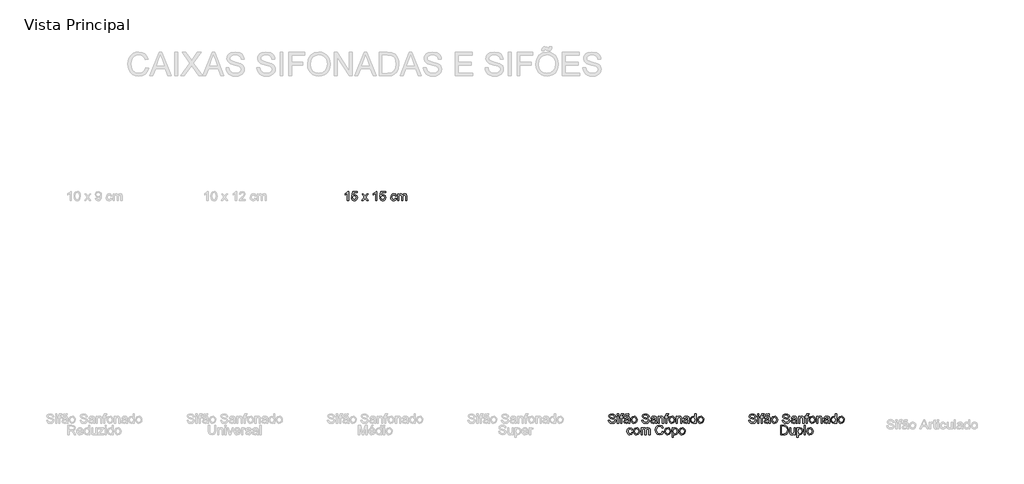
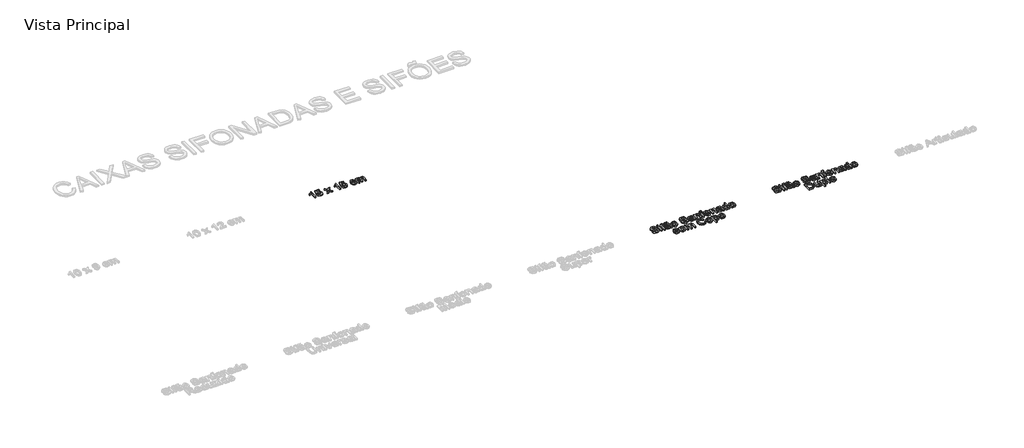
# One storey, part 4 of 5: 3 proxies.
"""IFC4 building model written with IfcOpenShell, lengths in millimetres."""

from ifc_helpers import new_model, si_unit, origin, origin_with_axes, place, context, project, spatial, polyline, outline, extrude, element, save

model = new_model("IFC4")

# Units and contexts
model_context = context("Model", 3, world=origin())
ifc_project = project(units=[si_unit("LENGTHUNIT", "METRE", prefix="MILLI")], contexts=[model_context])

# Site, building, storey
site = spatial("IfcSite", under=ifc_project)
building = spatial("IfcBuilding", under=site)
storey = spatial("IfcBuildingStorey", under=building, Name="Vista Principal", Elevation=0.0)

# Proxies
placement = place(None, origin())
element("IfcBuildingElementProxy", 1, Name="Texto", ObjectType="Texto", at=placement, inside=storey, context=model_context, shape_type="SweptSolid", body=[
    extrude(outline(polyline([(50.7025466, -411.7621072), (43.1683233, -411.7621072), (43.1683233, -364.7909341), (36.0314126, -369.8750633), (28.0998768, -373.6789631), (28.0998768, -366.5567677), (39.1436943, -359.5081486), (45.8465042, -351.4883211), (50.7025466, -351.4883211), (50.7025466, -411.7621072)])), origin_with_axes(), (0.0, 0.0, 1.0), 10.0),
    extrude(outline(polyline([(68.5963268, -395.7518828), (76.1305501, -394.8101049), (79.9270922, -402.572415), (87.7997669, -405.1696619), (97.2469766, -401.5570607), (100.6167757, -391.9700559), (97.4603481, -383.0231658), (87.9174892, -379.7416584), (81.3029709, -381.0513183), (77.072328, -384.4505479), (69.5381047, -383.50877), (76.1305501, -352.4300991), (105.3256652, -352.4300991), (105.3256652, -359.9643223), (82.2226759, -359.9643223), (79.0000296, -376.5631579), (90.0217742, -372.2074351), (102.9050017, -377.6079428), (108.1509989, -391.4991669), (103.4273941, -405.4786828), (96.6436501, -410.8975845), (87.7703364, -412.7038851), (74.4750811, -408.0612144), (68.5963268, -395.7518828)])), origin_with_axes(), (0.0, 0.0, 1.0), 10.0),
    extrude(outline(polyline([(135.4625582, -411.7621072), (151.5610743, -389.5126042), (136.4043361, -367.4985456), (145.4689485, -367.4985456), (152.7824426, -378.093547), (156.1963875, -383.0967422), (159.1541587, -379.0058944), (167.4830071, -367.4985456), (176.5476195, -367.4985456), (160.6256867, -389.5126042), (175.9590083, -411.7621072), (166.8943959, -411.7621072), (157.6679155, -398.3859179), (155.9756583, -395.9431814), (144.5271706, -411.7621072), (135.4625582, -411.7621072)])), origin_with_axes(), (0.0, 0.0, 1.0), 10.0),
    extrude(outline(polyline([(232.4656827, -411.7621072), (224.9314595, -411.7621072), (224.9314595, -364.7909341), (217.7945488, -369.8750633), (209.8630129, -373.6789631), (209.8630129, -366.5567677), (220.9068304, -359.5081486), (227.6096404, -351.4883211), (232.4656827, -351.4883211), (232.4656827, -411.7621072)])), origin_with_axes(), (0.0, 0.0, 1.0), 10.0),
    extrude(outline(polyline([(250.359463, -395.7518828), (257.8936862, -394.8101049), (261.6902284, -402.572415), (269.5629031, -405.1696619), (279.0101128, -401.5570607), (282.3799118, -391.9700559), (279.2234843, -383.0231658), (269.6806254, -379.7416584), (263.0661071, -381.0513183), (258.8354641, -384.4505479), (251.3012409, -383.50877), (257.8936862, -352.4300991), (287.0888014, -352.4300991), (287.0888014, -359.9643223), (263.9858121, -359.9643223), (260.7631658, -376.5631579), (271.7849104, -372.2074351), (284.6681378, -377.6079428), (289.9141351, -391.4991669), (285.1905303, -405.4786828), (278.4067863, -410.8975845), (269.5334726, -412.7038851), (256.2382173, -408.0612144), (250.359463, -395.7518828)])), origin_with_axes(), (0.0, 0.0, 1.0), 10.0),
    extrude(outline(polyline([(350.1879212, -395.7518828), (357.7221444, -396.6936607), (351.6741644, -408.4585269), (339.7253572, -412.7038851), (331.711048, -411.2231601), (325.4441782, -406.780985), (321.3993157, -399.5723373), (320.0510281, -389.7921945), (322.3539694, -377.276849), (329.3731579, -369.2349486), (339.6223503, -366.5567677), (351.0781956, -370.2355876), (356.7803665, -380.6834363), (349.2461433, -381.6252142), (345.7512643, -375.9819044), (339.6812114, -374.0909909), (330.9476928, -377.8139567), (327.5852514, -389.5861806), (330.8741164, -401.468769), (339.4751975, -405.1696619), (346.57532, -402.8593629), (350.1879212, -395.7518828)])), origin_with_axes(), (0.0, 0.0, 1.0), 10.0),
    extrude(outline(polyline([(364.3145898, -411.7621072), (364.3145898, -367.4985456), (371.8488131, -367.4985456), (371.8488131, -374.7826091), (377.0285916, -368.8155631), (384.4009467, -366.5567677), (391.9498853, -368.859709), (396.0995942, -375.3123592), (401.9783485, -368.7456655), (409.4022071, -366.5567677), (419.254087, -370.1987994), (422.7048201, -381.4192003), (422.7048201, -411.7621072), (415.1705968, -411.7621072), (415.1705968, -384.6565618), (414.471621, -378.3657797), (411.9405929, -375.2682133), (407.6363736, -374.0909909), (400.2272302, -377.1076233), (397.2768166, -386.7755621), (397.2768166, -411.7621072), (389.7425933, -411.7621072), (389.7425933, -383.8177909), (387.9988326, -376.5190121), (382.2819464, -374.0909909), (376.7048554, -375.7096717), (372.9966049, -380.4479918), (371.8488131, -389.4390278), (371.8488131, -411.7621072), (364.3145898, -411.7621072)])), origin_with_axes(), (0.0, 0.0, 1.0), 10.0),
])
element("IfcBuildingElementProxy", 2, Name="Texto", ObjectType="Texto", at=placement, inside=storey, context=model_context, shape_type="SweptSolid", body=[
    extrude(outline(polyline([(1715.0973215, -1818.6887424), (1722.6315448, -1818.6887424), (1725.059566, -1826.2303233), (1730.9898237, -1830.998074), (1740.0250055, -1832.8154111), (1747.8976802, -1831.4395324), (1752.9818094, -1827.6577055), (1754.6519937, -1822.6030069), (1753.4011949, -1817.901475), (1748.2802775, -1814.4801724), (1737.3100364, -1811.6033352), (1725.5010244, -1807.8877271), (1719.09252, -1802.2812055), (1716.9808774, -1794.791128), (1719.5928395, -1786.2636234), (1727.2227121, -1780.2450739), (1738.3916095, -1778.1922924), (1750.3109861, -1780.3407233), (1758.2572372, -1786.6535783), (1761.244439, -1796.0860727), (1753.7102158, -1796.0860727), (1749.4427846, -1788.3458355), (1738.6859151, -1785.7265157), (1727.899615, -1788.3164049), (1724.5151006, -1794.5703988), (1726.9136912, -1799.7943232), (1739.2156651, -1804.0028932), (1752.5477086, -1807.7847201), (1759.8391298, -1813.8915612), (1762.1862169, -1822.4117082), (1759.4859631, -1831.4248171), (1751.7162953, -1838.0025472), (1740.3193111, -1840.3496343), (1726.8621877, -1837.8186062), (1718.3493984, -1830.1960912), (1715.0973215, -1818.6887424)])), origin_with_axes(), (0.0, 0.0, 1.0), 10.0),
    extrude(outline(polyline([(1772.5457739, -1839.4078564), (1772.5457739, -1795.1442947), (1780.0799972, -1795.1442947), (1780.0799972, -1839.4078564), (1772.5457739, -1839.4078564)])), origin_with_axes(), (0.0, 0.0, 1.0), 10.0),
    extrude(outline(polyline([(1772.5457739, -1786.6682936), (1772.5457739, -1779.1340703), (1780.0799972, -1779.1340703), (1780.0799972, -1786.6682936), (1772.5457739, -1786.6682936)])), origin_with_axes(), (0.0, 0.0, 1.0), 10.0),
    extrude(outline(polyline([(1793.2648879, -1839.4078564), (1793.2648879, -1802.678518), (1786.6724425, -1802.678518), (1786.6724425, -1795.1442947), (1793.2648879, -1795.1442947), (1793.2648879, -1790.685565), (1794.059513, -1784.4021405), (1797.9149163, -1779.9139801), (1805.5080007, -1778.1922924), (1812.3800363, -1779.0163481), (1811.2763904, -1786.0796824), (1806.9353828, -1785.7265157), (1802.1897051, -1786.9773145), (1800.7991111, -1791.6420582), (1800.7991111, -1795.1442947), (1809.2751123, -1795.1442947), (1809.2751123, -1802.678518), (1800.7991111, -1802.678518), (1800.7991111, -1839.4078564), (1793.2648879, -1839.4078564)])), origin_with_axes(), (0.0, 0.0, 1.0), 10.0),
    extrude(outline(polyline([(1844.1208949, -1833.757189), (1836.8147585, -1838.8633911), (1828.7434275, -1840.3496343), (1817.802617, -1836.7738213), (1813.9840018, -1827.6356326), (1815.4260993, -1821.6759442), (1819.2152838, -1817.349652), (1824.4907116, -1814.877485), (1831.0095806, -1813.7444084), (1844.076749, -1811.1545192), (1844.1208949, -1809.4769773), (1842.0460404, -1803.9146015), (1833.7171921, -1801.7367401), (1826.0946771, -1803.1861952), (1822.460003, -1808.3291855), (1814.9257798, -1807.3874075), (1818.1852142, -1800.0297676), (1824.748229, -1795.7181907), (1834.6884005, -1794.2025168), (1843.8192317, -1795.5416073), (1848.9769372, -1798.9040487), (1851.2872362, -1804.0176085), (1851.6551181, -1810.6100538), (1851.6551181, -1819.9836871), (1852.0377154, -1833.0729284), (1853.538674, -1839.4078564), (1846.0044507, -1839.4078564), (1844.1208949, -1833.757189)]), holes=[polyline([(1844.1208949, -1818.6887424), (1831.9660738, -1820.9990414), (1825.483993, -1822.2204096), (1822.5482947, -1824.2069724), (1821.5182251, -1827.1058825), (1823.7623053, -1831.182015), (1830.347393, -1832.8154111), (1837.9699079, -1831.0127893), (1842.8848114, -1826.6497088), (1844.076749, -1820.822458), (1844.1208949, -1818.6887424)])]), origin_with_axes(), (0.0, 0.0, 1.0), 10.0),
    extrude(outline(polyline([(1820.5764472, -1790.4354052), (1822.9161767, -1782.2095638), (1828.9052956, -1779.1340703), (1834.9385603, -1781.5620915), (1837.9846232, -1782.9011819), (1839.5812311, -1782.143345), (1840.3537833, -1779.1340703), (1846.9462286, -1779.1340703), (1844.5549956, -1787.6100715), (1838.7792483, -1790.4354052), (1832.81956, -1788.1398216), (1829.6410596, -1786.6682936), (1827.8457954, -1787.6247868), (1827.1688926, -1790.4354052), (1820.5764472, -1790.4354052)])), origin_with_axes(), (0.0, 0.0, 1.0), 10.0),
    extrude(outline(polyline([(1860.1311193, -1817.2760756), (1861.7608366, -1806.6038189), (1866.6499883, -1799.102705), (1879.9231707, -1794.2025168), (1887.8381518, -1795.6942783), (1894.1602039, -1800.1695628), (1898.3043945, -1807.2752035), (1899.6857914, -1816.6580338), (1897.243055, -1830.0636537), (1890.1282172, -1837.6493805), (1879.9231707, -1840.3496343), (1871.9125402, -1838.8633911), (1865.5978458, -1834.4046613), (1861.4978009, -1827.1500283), (1860.1311193, -1817.2760756)]), holes=[polyline([(1867.6653426, -1817.2613603), (1871.1528639, -1828.9379348), (1879.9231707, -1832.8154111), (1888.6640469, -1828.9158619), (1892.1515682, -1817.0259158), (1888.6419739, -1805.6142163), (1879.9231707, -1801.7367401), (1871.1528639, -1805.599501), (1867.6653426, -1817.2613603)])]), origin_with_axes(), (0.0, 0.0, 1.0), 10.0),
    extrude(outline(polyline([(1929.8226845, -1818.6887424), (1937.3569077, -1818.6887424), (1939.7849289, -1826.2303233), (1945.7151867, -1830.998074), (1954.7503685, -1832.8154111), (1962.6230432, -1831.4395324), (1967.7071723, -1827.6577055), (1969.3773566, -1822.6030069), (1968.1265578, -1817.901475), (1963.0056404, -1814.4801724), (1952.0353994, -1811.6033352), (1940.2263873, -1807.8877271), (1933.817883, -1802.2812055), (1931.7062403, -1794.791128), (1934.3182025, -1786.2636234), (1941.948075, -1780.2450739), (1953.1169724, -1778.1922924), (1965.0363491, -1780.3407233), (1972.9826002, -1786.6535783), (1975.969802, -1796.0860727), (1968.4355787, -1796.0860727), (1964.1681476, -1788.3458355), (1953.411278, -1785.7265157), (1942.6249779, -1788.3164049), (1939.2404636, -1794.5703988), (1941.6390542, -1799.7943232), (1953.9410281, -1804.0028932), (1967.2730716, -1807.7847201), (1974.5644927, -1813.8915612), (1976.9115799, -1822.4117082), (1974.211326, -1831.4248171), (1966.4416583, -1838.0025472), (1955.0446741, -1840.3496343), (1941.5875507, -1837.8186062), (1933.0747613, -1830.1960912), (1929.8226845, -1818.6887424)])), origin_with_axes(), (0.0, 0.0, 1.0), 10.0),
    extrude(outline(polyline([(2015.5244741, -1833.757189), (2008.2183377, -1838.8633911), (2000.1470067, -1840.3496343), (1989.2061961, -1836.7738213), (1985.387581, -1827.6356326), (1986.8296785, -1821.6759442), (1990.618863, -1817.349652), (1995.8942908, -1814.877485), (2002.4131598, -1813.7444084), (2015.4803282, -1811.1545192), (2015.5244741, -1809.4769773), (2013.4496196, -1803.9146015), (2005.1207713, -1801.7367401), (1997.4982563, -1803.1861952), (1993.8635822, -1808.3291855), (1986.3293589, -1807.3874075), (1989.5887934, -1800.0297676), (1996.1518082, -1795.7181907), (2006.0919797, -1794.2025168), (2015.2228108, -1795.5416073), (2020.3805164, -1798.9040487), (2022.6908153, -1804.0176085), (2023.0586973, -1810.6100538), (2023.0586973, -1819.9836871), (2023.4412946, -1833.0729284), (2024.9422532, -1839.4078564), (2017.4080299, -1839.4078564), (2015.5244741, -1833.757189)]), holes=[polyline([(2015.5244741, -1818.6887424), (2003.369653, -1820.9990414), (1996.8875722, -1822.2204096), (1993.9518739, -1824.2069724), (1992.9218043, -1827.1058825), (1995.1658845, -1831.182015), (2001.7509722, -1832.8154111), (2009.3734871, -1831.0127893), (2014.2883906, -1826.6497088), (2015.4803282, -1820.822458), (2015.5244741, -1818.6887424)])]), origin_with_axes(), (0.0, 0.0, 1.0), 10.0),
    extrude(outline(polyline([(2033.4182543, -1839.4078564), (2033.4182543, -1795.1442947), (2040.9524776, -1795.1442947), (2040.9524776, -1801.3247123), (2046.7135096, -1795.9830657), (2054.5788267, -1794.2025168), (2061.6936645, -1795.6372566), (2066.5497068, -1799.4043683), (2068.8085023, -1804.9446711), (2069.2058148, -1812.2287346), (2069.2058148, -1839.4078564), (2061.6715916, -1839.4078564), (2061.6715916, -1813.2440889), (2060.80339, -1806.5780672), (2057.7352542, -1803.0537576), (2052.5628334, -1801.7367401), (2044.3884954, -1804.6945113), (2040.9524776, -1815.9222698), (2040.9524776, -1839.4078564), (2033.4182543, -1839.4078564)])), origin_with_axes(), (0.0, 0.0, 1.0), 10.0),
    extrude(outline(polyline([(2081.4489276, -1839.4078564), (2081.4489276, -1802.678518), (2074.8564823, -1802.678518), (2074.8564823, -1795.1442947), (2081.4489276, -1795.1442947), (2081.4489276, -1790.685565), (2082.2435527, -1784.4021405), (2086.098956, -1779.9139801), (2093.6920404, -1778.1922924), (2100.5640761, -1779.0163481), (2099.4604301, -1786.0796824), (2095.1194226, -1785.7265157), (2090.3737448, -1786.9773145), (2088.9831509, -1791.6420582), (2088.9831509, -1795.1442947), (2097.459152, -1795.1442947), (2097.459152, -1802.678518), (2088.9831509, -1802.678518), (2088.9831509, -1839.4078564), (2081.4489276, -1839.4078564)])), origin_with_axes(), (0.0, 0.0, 1.0), 10.0),
    extrude(outline(polyline([(2102.1680416, -1817.2760756), (2103.7977588, -1806.6038189), (2108.6869105, -1799.102705), (2121.9600929, -1794.2025168), (2129.8750741, -1795.6942783), (2136.1971261, -1800.1695628), (2140.3413168, -1807.2752035), (2141.7227137, -1816.6580338), (2139.2799773, -1830.0636537), (2132.1651395, -1837.6493805), (2121.9600929, -1840.3496343), (2113.9494625, -1838.8633911), (2107.634768, -1834.4046613), (2103.5347232, -1827.1500283), (2102.1680416, -1817.2760756)]), holes=[polyline([(2109.7022648, -1817.2613603), (2113.1897862, -1828.9379348), (2121.9600929, -1832.8154111), (2130.7009691, -1828.9158619), (2134.1884904, -1817.0259158), (2130.6788962, -1805.6142163), (2121.9600929, -1801.7367401), (2113.1897862, -1805.599501), (2109.7022648, -1817.2613603)])]), origin_with_axes(), (0.0, 0.0, 1.0), 10.0),
    extrude(outline(polyline([(2150.1987149, -1839.4078564), (2150.1987149, -1795.1442947), (2157.7329381, -1795.1442947), (2157.7329381, -1801.3247123), (2163.4939702, -1795.9830657), (2171.3592872, -1794.2025168), (2178.474125, -1795.6372566), (2183.3301674, -1799.4043683), (2185.5889628, -1804.9446711), (2185.9862754, -1812.2287346), (2185.9862754, -1839.4078564), (2178.4520521, -1839.4078564), (2178.4520521, -1813.2440889), (2177.5838506, -1806.5780672), (2174.5157148, -1803.0537576), (2169.3432939, -1801.7367401), (2161.168956, -1804.6945113), (2157.7329381, -1815.9222698), (2157.7329381, -1839.4078564), (2150.1987149, -1839.4078564)])), origin_with_axes(), (0.0, 0.0, 1.0), 10.0),
    extrude(outline(polyline([(2224.5991696, -1833.757189), (2217.2930332, -1838.8633911), (2209.2217022, -1840.3496343), (2198.2808916, -1836.7738213), (2194.4622765, -1827.6356326), (2195.904374, -1821.6759442), (2199.6935585, -1817.349652), (2204.9689863, -1814.877485), (2211.4878553, -1813.7444084), (2224.5550237, -1811.1545192), (2224.5991696, -1809.4769773), (2222.5243151, -1803.9146015), (2214.1954668, -1801.7367401), (2206.5729518, -1803.1861952), (2202.9382777, -1808.3291855), (2195.4040544, -1807.3874075), (2198.6634889, -1800.0297676), (2205.2265037, -1795.7181907), (2215.1666752, -1794.2025168), (2224.2975063, -1795.5416073), (2229.4552119, -1798.9040487), (2231.7655108, -1804.0176085), (2232.1333928, -1810.6100538), (2232.1333928, -1819.9836871), (2232.5159901, -1833.0729284), (2234.0169487, -1839.4078564), (2226.4827254, -1839.4078564), (2224.5991696, -1833.757189)]), holes=[polyline([(2224.5991696, -1818.6887424), (2212.4443485, -1820.9990414), (2205.9622677, -1822.2204096), (2203.0265694, -1824.2069724), (2201.9964998, -1827.1058825), (2204.24058, -1831.182015), (2210.8256677, -1832.8154111), (2218.4481826, -1831.0127893), (2223.3630861, -1826.6497088), (2224.5550237, -1820.822458), (2224.5991696, -1818.6887424)])]), origin_with_axes(), (0.0, 0.0, 1.0), 10.0),
    extrude(outline(polyline([(2269.8045091, -1839.4078564), (2269.8045091, -1832.3003763), (2264.8197081, -1838.3373198), (2257.9292783, -1840.3496343), (2248.5997909, -1837.4360089), (2242.0073456, -1829.3058168), (2239.6676161, -1817.3202214), (2241.8234046, -1805.3272684), (2248.2834124, -1797.0719964), (2257.8998478, -1794.2025168), (2264.8454599, -1796.2552984), (2269.8045091, -1801.5895873), (2269.8045091, -1779.1340703), (2277.3387324, -1779.1340703), (2277.3387324, -1839.4078564), (2269.8045091, -1839.4078564)]), holes=[polyline([(2247.2018394, -1817.2907909), (2250.601069, -1828.9526501), (2258.6208965, -1832.8154111), (2266.5450747, -1829.1292335), (2269.8045091, -1817.8646868), (2266.4862136, -1805.6362892), (2258.3118756, -1801.7367401), (2250.3803398, -1805.4817788), (2247.2018394, -1817.2907909)])]), origin_with_axes(), (0.0, 0.0, 1.0), 10.0),
    extrude(outline(polyline([(2286.7565115, -1817.2760756), (2288.3862287, -1806.6038189), (2293.2753804, -1799.102705), (2306.5485628, -1794.2025168), (2314.463544, -1795.6942783), (2320.785596, -1800.1695628), (2324.9297867, -1807.2752035), (2326.3111836, -1816.6580338), (2323.8684472, -1830.0636537), (2316.7536094, -1837.6493805), (2306.5485628, -1840.3496343), (2298.5379324, -1838.8633911), (2292.2232379, -1834.4046613), (2288.1231931, -1827.1500283), (2286.7565115, -1817.2760756)]), holes=[polyline([(2294.2907347, -1817.2613603), (2297.7782561, -1828.9379348), (2306.5485628, -1832.8154111), (2315.289439, -1828.9158619), (2318.7769603, -1817.0259158), (2315.2673661, -1805.6142163), (2306.5485628, -1801.7367401), (2297.7782561, -1805.599501), (2294.2907347, -1817.2613603)])]), origin_with_axes(), (0.0, 0.0, 1.0), 10.0),
    extrude(outline(polyline([(1863.8982309, -1896.5825227), (1871.4324542, -1897.5243006), (1865.3844742, -1909.2891668), (1853.435667, -1913.534525), (1845.4213577, -1912.0538), (1839.154488, -1907.6116249), (1835.1096254, -1900.4029772), (1833.7613379, -1890.6228344), (1836.0642792, -1878.1074889), (1843.0834677, -1870.0655885), (1853.33266, -1867.3874075), (1864.7885054, -1871.0662275), (1870.4906763, -1881.5140762), (1862.956453, -1882.4558541), (1859.4615741, -1876.8125443), (1853.3915212, -1874.9216308), (1844.6580026, -1878.6445966), (1841.2955612, -1890.4168204), (1844.5844262, -1902.2994089), (1853.1855072, -1906.0003018), (1860.2856298, -1903.6900028), (1863.8982309, -1896.5825227)])), origin_with_axes(), (0.0, 0.0, 1.0), 10.0),
    extrude(outline(polyline([(1876.1413437, -1890.4609663), (1877.771061, -1879.7887096), (1882.6602127, -1872.2875957), (1895.9333951, -1867.3874075), (1903.8483762, -1868.879169), (1910.1704283, -1873.3544535), (1914.314619, -1880.4600942), (1915.6960159, -1889.8429245), (1913.2532794, -1903.2485444), (1906.1384416, -1910.8342712), (1895.9333951, -1913.534525), (1887.9227646, -1912.0482818), (1881.6080702, -1907.589552), (1877.5080254, -1900.334919), (1876.1413437, -1890.4609663)]), holes=[polyline([(1883.675567, -1890.446251), (1887.1630883, -1902.1228255), (1895.9333951, -1906.0003018), (1904.6742713, -1902.1007526), (1908.1617926, -1890.2108065), (1904.6521984, -1878.799107), (1895.9333951, -1874.9216308), (1887.1630883, -1878.7843918), (1883.675567, -1890.446251)])]), origin_with_axes(), (0.0, 0.0, 1.0), 10.0),
    extrude(outline(polyline([(1924.172017, -1912.5927471), (1924.172017, -1868.3291855), (1931.7062403, -1868.3291855), (1931.7062403, -1875.613249), (1936.8860188, -1869.646203), (1944.258374, -1867.3874075), (1951.8073125, -1869.6903488), (1955.9570214, -1876.142999), (1961.8357757, -1869.5763054), (1969.2596344, -1867.3874075), (1979.1115142, -1871.0294393), (1982.5622473, -1882.2498402), (1982.5622473, -1912.5927471), (1975.0280241, -1912.5927471), (1975.0280241, -1885.4872017), (1974.3290483, -1879.1964196), (1971.7980201, -1876.0988532), (1967.4938008, -1874.9216308), (1960.0846574, -1877.9382632), (1957.1342438, -1887.606202), (1957.1342438, -1912.5927471), (1949.6000205, -1912.5927471), (1949.6000205, -1884.6484308), (1947.8562599, -1877.349652), (1942.1393737, -1874.9216308), (1936.5622826, -1876.5403116), (1932.8540321, -1881.2786317), (1931.7062403, -1890.2696676), (1931.7062403, -1912.5927471), (1924.172017, -1912.5927471)])), origin_with_axes(), (0.0, 0.0, 1.0), 10.0),
    extrude(outline(polyline([(2060.7298136, -1891.1672997), (2068.2640369, -1893.1097166), (2059.3318621, -1908.303243), (2043.5570821, -1913.534525), (2027.8779515, -1909.5761148), (2018.6809016, -1898.1129118), (2015.5244741, -1881.9996804), (2019.0929294, -1865.621574), (2029.2391149, -1855.0044996), (2043.7189502, -1851.3771831), (2058.8094696, -1856.0713574), (2067.322259, -1869.2856786), (2059.7880357, -1871.0809428), (2053.6076182, -1861.8176741), (2043.4246446, -1858.9114064), (2031.6377055, -1862.1340527), (2024.9790414, -1870.7866372), (2023.0586973, -1881.9849651), (2025.3322081, -1894.9638419), (2032.4102577, -1903.2559021), (2042.8066028, -1906.0003018), (2054.3360246, -1902.2626207), (2060.7298136, -1891.1672997)])), origin_with_axes(), (0.0, 0.0, 1.0), 10.0),
    extrude(outline(polyline([(2075.7982602, -1890.4609663), (2077.4279774, -1879.7887096), (2082.3171291, -1872.2875957), (2095.5903115, -1867.3874075), (2103.5052926, -1868.879169), (2109.8273447, -1873.3544535), (2113.9715354, -1880.4600942), (2115.3529323, -1889.8429245), (2112.9101958, -1903.2485444), (2105.7953581, -1910.8342712), (2095.5903115, -1913.534525), (2087.5796811, -1912.0482818), (2081.2649866, -1907.589552), (2077.1649418, -1900.334919), (2075.7982602, -1890.4609663)]), holes=[polyline([(2083.3324834, -1890.446251), (2086.8200047, -1902.1228255), (2095.5903115, -1906.0003018), (2104.3311877, -1902.1007526), (2107.818709, -1890.2108065), (2104.3091148, -1878.799107), (2095.5903115, -1874.9216308), (2086.8200047, -1878.7843918), (2083.3324834, -1890.446251)])]), origin_with_axes(), (0.0, 0.0, 1.0), 10.0),
    extrude(outline(polyline([(2123.8289335, -1929.5447495), (2123.8289335, -1868.3291855), (2131.3631567, -1868.3291855), (2131.3631567, -1875.7162559), (2136.5723658, -1869.4696196), (2143.6062695, -1867.3874075), (2153.1564861, -1870.3010329), (2159.3957648, -1878.5121591), (2161.5000498, -1890.1225148), (2159.1235321, -1902.3288394), (2152.2220658, -1910.6429725), (2142.6939222, -1913.534525), (2136.138265, -1911.5994657), (2131.3631567, -1906.7066352), (2131.3631567, -1929.5447495), (2123.8289335, -1929.5447495)]), holes=[polyline([(2131.3631567, -1890.814133), (2134.6225912, -1902.2920512), (2142.5320541, -1906.0003018), (2150.6033851, -1902.1596137), (2153.9658265, -1890.2549524), (2150.6843191, -1878.7476036), (2142.841075, -1874.9216308), (2134.8433204, -1878.9904057), (2131.3631567, -1890.814133)])]), origin_with_axes(), (0.0, 0.0, 1.0), 10.0),
    extrude(outline(polyline([(2168.0924951, -1890.4609663), (2169.7222124, -1879.7887096), (2174.6113641, -1872.2875957), (2187.8845465, -1867.3874075), (2195.7995276, -1868.879169), (2202.1215797, -1873.3544535), (2206.2657704, -1880.4600942), (2207.6471672, -1889.8429245), (2205.2044308, -1903.2485444), (2198.089593, -1910.8342712), (2187.8845465, -1913.534525), (2179.873916, -1912.0482818), (2173.5592216, -1907.589552), (2169.4591767, -1900.334919), (2168.0924951, -1890.4609663)]), holes=[polyline([(2175.6267184, -1890.446251), (2179.1142397, -1902.1228255), (2187.8845465, -1906.0003018), (2196.6254227, -1902.1007526), (2200.112944, -1890.2108065), (2196.6033497, -1878.799107), (2187.8845465, -1874.9216308), (2179.1142397, -1878.7843918), (2175.6267184, -1890.446251)])]), origin_with_axes(), (0.0, 0.0, 1.0), 10.0),
])
element("IfcBuildingElementProxy", 3, Name="Texto", ObjectType="Texto", at=placement, inside=storey, context=model_context, shape_type="SweptSolid", body=[
    extrude(outline(polyline([(2615.0973215, -1818.6887424), (2622.6315448, -1818.6887424), (2625.059566, -1826.2303233), (2630.9898237, -1830.998074), (2640.0250055, -1832.8154111), (2647.8976802, -1831.4395324), (2652.9818094, -1827.6577055), (2654.6519937, -1822.6030069), (2653.4011949, -1817.901475), (2648.2802775, -1814.4801724), (2637.3100364, -1811.6033352), (2625.5010244, -1807.8877271), (2619.09252, -1802.2812055), (2616.9808774, -1794.791128), (2619.5928395, -1786.2636234), (2627.2227121, -1780.2450739), (2638.3916095, -1778.1922924), (2650.3109861, -1780.3407233), (2658.2572372, -1786.6535783), (2661.244439, -1796.0860727), (2653.7102158, -1796.0860727), (2649.4427846, -1788.3458355), (2638.6859151, -1785.7265157), (2627.899615, -1788.3164049), (2624.5151006, -1794.5703988), (2626.9136912, -1799.7943232), (2639.2156651, -1804.0028932), (2652.5477086, -1807.7847201), (2659.8391298, -1813.8915612), (2662.1862169, -1822.4117082), (2659.4859631, -1831.4248171), (2651.7162953, -1838.0025472), (2640.3193111, -1840.3496343), (2626.8621877, -1837.8186062), (2618.3493984, -1830.1960912), (2615.0973215, -1818.6887424)])), origin_with_axes(), (0.0, 0.0, 1.0), 10.0),
    extrude(outline(polyline([(2672.5457739, -1839.4078564), (2672.5457739, -1795.1442947), (2680.0799972, -1795.1442947), (2680.0799972, -1839.4078564), (2672.5457739, -1839.4078564)])), origin_with_axes(), (0.0, 0.0, 1.0), 10.0),
    extrude(outline(polyline([(2672.5457739, -1786.6682936), (2672.5457739, -1779.1340703), (2680.0799972, -1779.1340703), (2680.0799972, -1786.6682936), (2672.5457739, -1786.6682936)])), origin_with_axes(), (0.0, 0.0, 1.0), 10.0),
    extrude(outline(polyline([(2693.2648879, -1839.4078564), (2693.2648879, -1802.678518), (2686.6724425, -1802.678518), (2686.6724425, -1795.1442947), (2693.2648879, -1795.1442947), (2693.2648879, -1790.685565), (2694.059513, -1784.4021405), (2697.9149163, -1779.9139801), (2705.5080007, -1778.1922924), (2712.3800363, -1779.0163481), (2711.2763904, -1786.0796824), (2706.9353828, -1785.7265157), (2702.1897051, -1786.9773145), (2700.7991111, -1791.6420582), (2700.7991111, -1795.1442947), (2709.2751123, -1795.1442947), (2709.2751123, -1802.678518), (2700.7991111, -1802.678518), (2700.7991111, -1839.4078564), (2693.2648879, -1839.4078564)])), origin_with_axes(), (0.0, 0.0, 1.0), 10.0),
    extrude(outline(polyline([(2744.1208949, -1833.757189), (2736.8147585, -1838.8633911), (2728.7434275, -1840.3496343), (2717.802617, -1836.7738213), (2713.9840018, -1827.6356326), (2715.4260993, -1821.6759442), (2719.2152838, -1817.349652), (2724.4907116, -1814.877485), (2731.0095806, -1813.7444084), (2744.076749, -1811.1545192), (2744.1208949, -1809.4769773), (2742.0460404, -1803.9146015), (2733.7171921, -1801.7367401), (2726.0946771, -1803.1861952), (2722.460003, -1808.3291855), (2714.9257798, -1807.3874075), (2718.1852142, -1800.0297676), (2724.748229, -1795.7181907), (2734.6884005, -1794.2025168), (2743.8192317, -1795.5416073), (2748.9769372, -1798.9040487), (2751.2872362, -1804.0176085), (2751.6551181, -1810.6100538), (2751.6551181, -1819.9836871), (2752.0377154, -1833.0729284), (2753.538674, -1839.4078564), (2746.0044507, -1839.4078564), (2744.1208949, -1833.757189)]), holes=[polyline([(2744.1208949, -1818.6887424), (2731.9660738, -1820.9990414), (2725.483993, -1822.2204096), (2722.5482947, -1824.2069724), (2721.5182251, -1827.1058825), (2723.7623053, -1831.182015), (2730.347393, -1832.8154111), (2737.9699079, -1831.0127893), (2742.8848114, -1826.6497088), (2744.076749, -1820.822458), (2744.1208949, -1818.6887424)])]), origin_with_axes(), (0.0, 0.0, 1.0), 10.0),
    extrude(outline(polyline([(2720.5764472, -1790.4354052), (2722.9161767, -1782.2095638), (2728.9052956, -1779.1340703), (2734.9385603, -1781.5620915), (2737.9846232, -1782.9011819), (2739.5812311, -1782.143345), (2740.3537833, -1779.1340703), (2746.9462286, -1779.1340703), (2744.5549956, -1787.6100715), (2738.7792483, -1790.4354052), (2732.81956, -1788.1398216), (2729.6410596, -1786.6682936), (2727.8457954, -1787.6247868), (2727.1688926, -1790.4354052), (2720.5764472, -1790.4354052)])), origin_with_axes(), (0.0, 0.0, 1.0), 10.0),
    extrude(outline(polyline([(2760.1311193, -1817.2760756), (2761.7608366, -1806.6038189), (2766.6499883, -1799.102705), (2779.9231707, -1794.2025168), (2787.8381518, -1795.6942783), (2794.1602039, -1800.1695628), (2798.3043945, -1807.2752035), (2799.6857914, -1816.6580338), (2797.243055, -1830.0636537), (2790.1282172, -1837.6493805), (2779.9231707, -1840.3496343), (2771.9125402, -1838.8633911), (2765.5978458, -1834.4046613), (2761.4978009, -1827.1500283), (2760.1311193, -1817.2760756)]), holes=[polyline([(2767.6653426, -1817.2613603), (2771.1528639, -1828.9379348), (2779.9231707, -1832.8154111), (2788.6640469, -1828.9158619), (2792.1515682, -1817.0259158), (2788.6419739, -1805.6142163), (2779.9231707, -1801.7367401), (2771.1528639, -1805.599501), (2767.6653426, -1817.2613603)])]), origin_with_axes(), (0.0, 0.0, 1.0), 10.0),
    extrude(outline(polyline([(2829.8226845, -1818.6887424), (2837.3569077, -1818.6887424), (2839.7849289, -1826.2303233), (2845.7151867, -1830.998074), (2854.7503685, -1832.8154111), (2862.6230432, -1831.4395324), (2867.7071723, -1827.6577055), (2869.3773566, -1822.6030069), (2868.1265578, -1817.901475), (2863.0056404, -1814.4801724), (2852.0353994, -1811.6033352), (2840.2263873, -1807.8877271), (2833.817883, -1802.2812055), (2831.7062403, -1794.791128), (2834.3182025, -1786.2636234), (2841.948075, -1780.2450739), (2853.1169724, -1778.1922924), (2865.0363491, -1780.3407233), (2872.9826002, -1786.6535783), (2875.969802, -1796.0860727), (2868.4355787, -1796.0860727), (2864.1681476, -1788.3458355), (2853.411278, -1785.7265157), (2842.6249779, -1788.3164049), (2839.2404636, -1794.5703988), (2841.6390542, -1799.7943232), (2853.9410281, -1804.0028932), (2867.2730716, -1807.7847201), (2874.5644927, -1813.8915612), (2876.9115799, -1822.4117082), (2874.211326, -1831.4248171), (2866.4416583, -1838.0025472), (2855.0446741, -1840.3496343), (2841.5875507, -1837.8186062), (2833.0747613, -1830.1960912), (2829.8226845, -1818.6887424)])), origin_with_axes(), (0.0, 0.0, 1.0), 10.0),
    extrude(outline(polyline([(2915.5244741, -1833.757189), (2908.2183377, -1838.8633911), (2900.1470067, -1840.3496343), (2889.2061961, -1836.7738213), (2885.387581, -1827.6356326), (2886.8296785, -1821.6759442), (2890.618863, -1817.349652), (2895.8942908, -1814.877485), (2902.4131598, -1813.7444084), (2915.4803282, -1811.1545192), (2915.5244741, -1809.4769773), (2913.4496196, -1803.9146015), (2905.1207713, -1801.7367401), (2897.4982563, -1803.1861952), (2893.8635822, -1808.3291855), (2886.3293589, -1807.3874075), (2889.5887934, -1800.0297676), (2896.1518082, -1795.7181907), (2906.0919797, -1794.2025168), (2915.2228108, -1795.5416073), (2920.3805164, -1798.9040487), (2922.6908153, -1804.0176085), (2923.0586973, -1810.6100538), (2923.0586973, -1819.9836871), (2923.4412946, -1833.0729284), (2924.9422532, -1839.4078564), (2917.4080299, -1839.4078564), (2915.5244741, -1833.757189)]), holes=[polyline([(2915.5244741, -1818.6887424), (2903.369653, -1820.9990414), (2896.8875722, -1822.2204096), (2893.9518739, -1824.2069724), (2892.9218043, -1827.1058825), (2895.1658845, -1831.182015), (2901.7509722, -1832.8154111), (2909.3734871, -1831.0127893), (2914.2883906, -1826.6497088), (2915.4803282, -1820.822458), (2915.5244741, -1818.6887424)])]), origin_with_axes(), (0.0, 0.0, 1.0), 10.0),
    extrude(outline(polyline([(2933.4182543, -1839.4078564), (2933.4182543, -1795.1442947), (2940.9524776, -1795.1442947), (2940.9524776, -1801.3247123), (2946.7135096, -1795.9830657), (2954.5788267, -1794.2025168), (2961.6936645, -1795.6372566), (2966.5497068, -1799.4043683), (2968.8085023, -1804.9446711), (2969.2058148, -1812.2287346), (2969.2058148, -1839.4078564), (2961.6715916, -1839.4078564), (2961.6715916, -1813.2440889), (2960.80339, -1806.5780672), (2957.7352542, -1803.0537576), (2952.5628334, -1801.7367401), (2944.3884954, -1804.6945113), (2940.9524776, -1815.9222698), (2940.9524776, -1839.4078564), (2933.4182543, -1839.4078564)])), origin_with_axes(), (0.0, 0.0, 1.0), 10.0),
    extrude(outline(polyline([(2981.4489276, -1839.4078564), (2981.4489276, -1802.678518), (2974.8564823, -1802.678518), (2974.8564823, -1795.1442947), (2981.4489276, -1795.1442947), (2981.4489276, -1790.685565), (2982.2435527, -1784.4021405), (2986.098956, -1779.9139801), (2993.6920404, -1778.1922924), (3000.5640761, -1779.0163481), (2999.4604301, -1786.0796824), (2995.1194226, -1785.7265157), (2990.3737448, -1786.9773145), (2988.9831509, -1791.6420582), (2988.9831509, -1795.1442947), (2997.459152, -1795.1442947), (2997.459152, -1802.678518), (2988.9831509, -1802.678518), (2988.9831509, -1839.4078564), (2981.4489276, -1839.4078564)])), origin_with_axes(), (0.0, 0.0, 1.0), 10.0),
    extrude(outline(polyline([(3002.1680416, -1817.2760756), (3003.7977588, -1806.6038189), (3008.6869105, -1799.102705), (3021.9600929, -1794.2025168), (3029.8750741, -1795.6942783), (3036.1971261, -1800.1695628), (3040.3413168, -1807.2752035), (3041.7227137, -1816.6580338), (3039.2799773, -1830.0636537), (3032.1651395, -1837.6493805), (3021.9600929, -1840.3496343), (3013.9494625, -1838.8633911), (3007.634768, -1834.4046613), (3003.5347232, -1827.1500283), (3002.1680416, -1817.2760756)]), holes=[polyline([(3009.7022648, -1817.2613603), (3013.1897862, -1828.9379348), (3021.9600929, -1832.8154111), (3030.7009691, -1828.9158619), (3034.1884904, -1817.0259158), (3030.6788962, -1805.6142163), (3021.9600929, -1801.7367401), (3013.1897862, -1805.599501), (3009.7022648, -1817.2613603)])]), origin_with_axes(), (0.0, 0.0, 1.0), 10.0),
    extrude(outline(polyline([(3050.1987149, -1839.4078564), (3050.1987149, -1795.1442947), (3057.7329381, -1795.1442947), (3057.7329381, -1801.3247123), (3063.4939702, -1795.9830657), (3071.3592872, -1794.2025168), (3078.474125, -1795.6372566), (3083.3301674, -1799.4043683), (3085.5889628, -1804.9446711), (3085.9862754, -1812.2287346), (3085.9862754, -1839.4078564), (3078.4520521, -1839.4078564), (3078.4520521, -1813.2440889), (3077.5838506, -1806.5780672), (3074.5157148, -1803.0537576), (3069.3432939, -1801.7367401), (3061.168956, -1804.6945113), (3057.7329381, -1815.9222698), (3057.7329381, -1839.4078564), (3050.1987149, -1839.4078564)])), origin_with_axes(), (0.0, 0.0, 1.0), 10.0),
    extrude(outline(polyline([(3124.5991696, -1833.757189), (3117.2930332, -1838.8633911), (3109.2217022, -1840.3496343), (3098.2808916, -1836.7738213), (3094.4622765, -1827.6356326), (3095.904374, -1821.6759442), (3099.6935585, -1817.349652), (3104.9689863, -1814.877485), (3111.4878553, -1813.7444084), (3124.5550237, -1811.1545192), (3124.5991696, -1809.4769773), (3122.5243151, -1803.9146015), (3114.1954668, -1801.7367401), (3106.5729518, -1803.1861952), (3102.9382777, -1808.3291855), (3095.4040544, -1807.3874075), (3098.6634889, -1800.0297676), (3105.2265037, -1795.7181907), (3115.1666752, -1794.2025168), (3124.2975063, -1795.5416073), (3129.4552119, -1798.9040487), (3131.7655108, -1804.0176085), (3132.1333928, -1810.6100538), (3132.1333928, -1819.9836871), (3132.5159901, -1833.0729284), (3134.0169487, -1839.4078564), (3126.4827254, -1839.4078564), (3124.5991696, -1833.757189)]), holes=[polyline([(3124.5991696, -1818.6887424), (3112.4443485, -1820.9990414), (3105.9622677, -1822.2204096), (3103.0265694, -1824.2069724), (3101.9964998, -1827.1058825), (3104.24058, -1831.182015), (3110.8256677, -1832.8154111), (3118.4481826, -1831.0127893), (3123.3630861, -1826.6497088), (3124.5550237, -1820.822458), (3124.5991696, -1818.6887424)])]), origin_with_axes(), (0.0, 0.0, 1.0), 10.0),
    extrude(outline(polyline([(3169.8045091, -1839.4078564), (3169.8045091, -1832.3003763), (3164.8197081, -1838.3373198), (3157.9292783, -1840.3496343), (3148.5997909, -1837.4360089), (3142.0073456, -1829.3058168), (3139.6676161, -1817.3202214), (3141.8234046, -1805.3272684), (3148.2834124, -1797.0719964), (3157.8998478, -1794.2025168), (3164.8454599, -1796.2552984), (3169.8045091, -1801.5895873), (3169.8045091, -1779.1340703), (3177.3387324, -1779.1340703), (3177.3387324, -1839.4078564), (3169.8045091, -1839.4078564)]), holes=[polyline([(3147.2018394, -1817.2907909), (3150.601069, -1828.9526501), (3158.6208965, -1832.8154111), (3166.5450747, -1829.1292335), (3169.8045091, -1817.8646868), (3166.4862136, -1805.6362892), (3158.3118756, -1801.7367401), (3150.3803398, -1805.4817788), (3147.2018394, -1817.2907909)])]), origin_with_axes(), (0.0, 0.0, 1.0), 10.0),
    extrude(outline(polyline([(3186.7565115, -1817.2760756), (3188.3862287, -1806.6038189), (3193.2753804, -1799.102705), (3206.5485628, -1794.2025168), (3214.463544, -1795.6942783), (3220.785596, -1800.1695628), (3224.9297867, -1807.2752035), (3226.3111836, -1816.6580338), (3223.8684472, -1830.0636537), (3216.7536094, -1837.6493805), (3206.5485628, -1840.3496343), (3198.5379324, -1838.8633911), (3192.2232379, -1834.4046613), (3188.1231931, -1827.1500283), (3186.7565115, -1817.2760756)]), holes=[polyline([(3194.2907347, -1817.2613603), (3197.7782561, -1828.9379348), (3206.5485628, -1832.8154111), (3215.289439, -1828.9158619), (3218.7769603, -1817.0259158), (3215.2673661, -1805.6142163), (3206.5485628, -1801.7367401), (3197.7782561, -1805.599501), (3194.2907347, -1817.2613603)])]), origin_with_axes(), (0.0, 0.0, 1.0), 10.0),
    extrude(outline(polyline([(2818.0504606, -1912.5927471), (2818.0504606, -1852.318961), (2838.843151, -1852.318961), (2849.6000205, -1853.1871625), (2858.458619, -1857.4987395), (2865.5955297, -1867.7994354), (2867.9646897, -1882.1321179), (2866.3607242, -1894.2942967), (2862.2404459, -1903.0719611), (2856.7369313, -1908.5386875), (2849.5338018, -1911.5626775), (2839.84379, -1912.5927471), (2818.0504606, -1912.5927471)]), holes=[polyline([(2825.5846839, -1905.0585239), (2838.9167274, -1905.0585239), (2848.6140968, -1903.9695931), (2854.2059031, -1900.8940997), (2858.7897128, -1893.4113799), (2860.4304665, -1882.0143957), (2857.2151778, -1867.7405743), (2849.3940066, -1861.0598372), (2838.7107135, -1859.8531843), (2825.5846839, -1859.8531843), (2825.5846839, -1905.0585239)])]), origin_with_axes(), (0.0, 0.0, 1.0), 10.0),
    extrude(outline(polyline([(2905.6358061, -1912.5927471), (2905.6358061, -1904.9849475), (2899.7349788, -1911.3971306), (2892.0388875, -1913.534525), (2884.9534803, -1912.0335665), (2880.0680074, -1908.2664549), (2877.8239272, -1902.7187944), (2877.3824688, -1895.7143212), (2877.3824688, -1868.3291855), (2884.9166921, -1868.3291855), (2884.9166921, -1892.1679387), (2885.3728658, -1899.8493148), (2888.3527099, -1904.3595481), (2893.9665892, -1906.0003018), (2900.2573713, -1904.3227599), (2904.4144378, -1899.7536655), (2905.6358061, -1891.3585984), (2905.6358061, -1868.3291855), (2913.1700293, -1868.3291855), (2913.1700293, -1912.5927471), (2905.6358061, -1912.5927471)])), origin_with_axes(), (0.0, 0.0, 1.0), 10.0),
    extrude(outline(polyline([(2923.5295863, -1929.5447495), (2923.5295863, -1868.3291855), (2931.0638096, -1868.3291855), (2931.0638096, -1875.7162559), (2936.2730186, -1869.4696196), (2943.3069224, -1867.3874075), (2952.857139, -1870.3010329), (2959.0964176, -1878.5121591), (2961.2007026, -1890.1225148), (2958.8241849, -1902.3288394), (2951.9227187, -1910.6429725), (2942.394575, -1913.534525), (2935.8389179, -1911.5994657), (2931.0638096, -1906.7066352), (2931.0638096, -1929.5447495), (2923.5295863, -1929.5447495)]), holes=[polyline([(2931.0638096, -1890.814133), (2934.323244, -1902.2920512), (2942.2327069, -1906.0003018), (2950.3040379, -1902.1596137), (2953.6664793, -1890.2549524), (2950.3849719, -1878.7476036), (2942.5417278, -1874.9216308), (2934.5439732, -1878.9904057), (2931.0638096, -1890.814133)])]), origin_with_axes(), (0.0, 0.0, 1.0), 10.0),
    extrude(outline(polyline([(2969.6767038, -1912.5927471), (2969.6767038, -1852.318961), (2977.210927, -1852.318961), (2977.210927, -1912.5927471), (2969.6767038, -1912.5927471)])), origin_with_axes(), (0.0, 0.0, 1.0), 10.0),
    extrude(outline(polyline([(2986.6287061, -1890.4609663), (2988.2584233, -1879.7887096), (2993.1475751, -1872.2875957), (3006.4207574, -1867.3874075), (3014.3357386, -1868.879169), (3020.6577907, -1873.3544535), (3024.8019813, -1880.4600942), (3026.1833782, -1889.8429245), (3023.7406418, -1903.2485444), (3016.625804, -1910.8342712), (3006.4207574, -1913.534525), (2998.410127, -1912.0482818), (2992.0954326, -1907.589552), (2987.9953877, -1900.334919), (2986.6287061, -1890.4609663)]), holes=[polyline([(2994.1629294, -1890.446251), (2997.6504507, -1902.1228255), (3006.4207574, -1906.0003018), (3015.1616337, -1902.1007526), (3018.649155, -1890.2108065), (3015.1395607, -1878.799107), (3006.4207574, -1874.9216308), (2997.6504507, -1878.7843918), (2994.1629294, -1890.446251)])]), origin_with_axes(), (0.0, 0.0, 1.0), 10.0),
])

save(model, "model.ifc")
